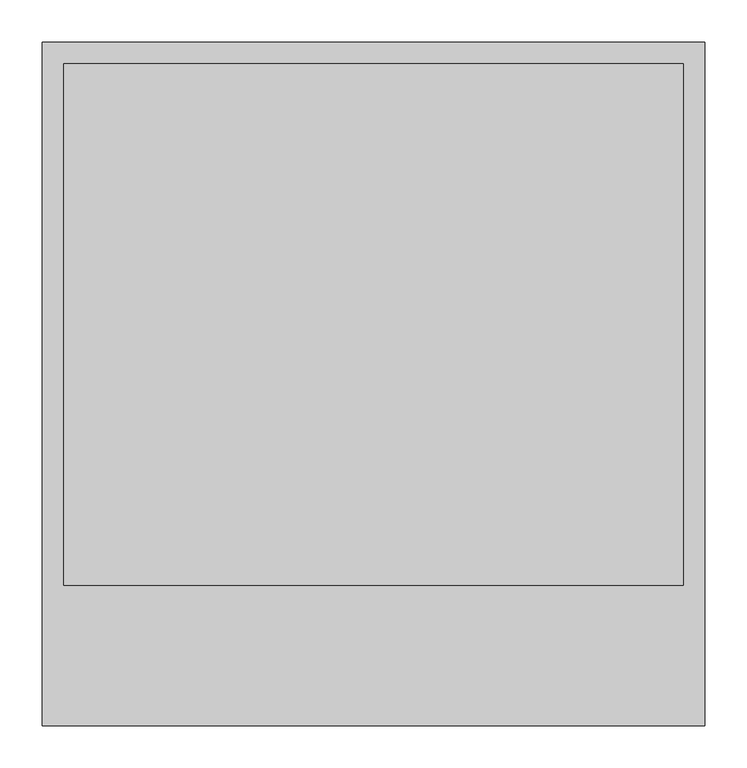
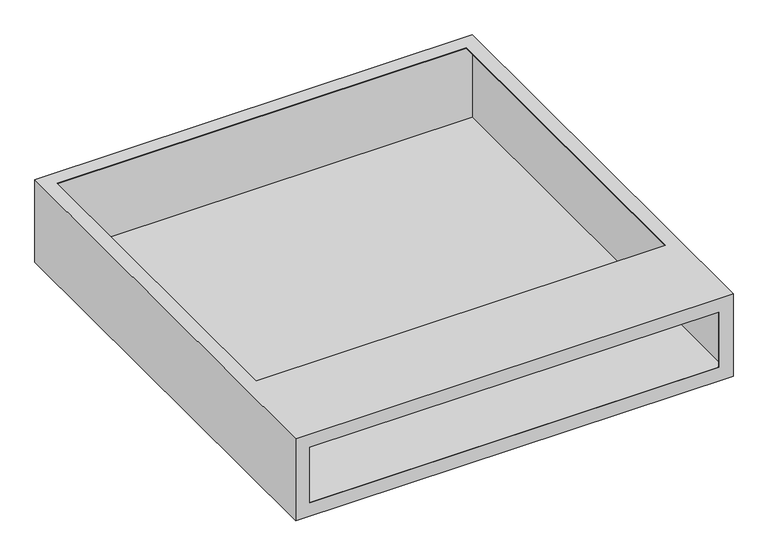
"""IFC4 building model written with IfcOpenShell, lengths in millimetres: valve geometry, USYSTEMS_Коллекторный шкаф_Накладной : 785x160 мм."""

from ifc_helpers import new_model, si_unit, origin, place, context, project, spatial, faceted_brep, source, transform, mapped, element, save


def valve_a98dd44e(model_context):
    return source(origin(), model_context, "Body", "Brep", [
        faceted_brep([(392.5, 405.0, 156.0), (-392.5, 405.0, 156.0), (-392.5, -405.0, 156.0), (392.5, -405.0, 156.0), (-367.0, 379.5, 156.0), (367.0, 379.5, 156.0), (367.0, -238.5, 156.0), (-367.0, -238.5, 156.0), (392.5, 405.0, 0.0), (392.5, -405.0, 0.0), (-392.5, -405.0, 0.0), (-392.5, 405.0, 0.0), (-367.0, -405.0, 130.5), (367.0, -405.0, 130.5), (367.0, -405.0, 25.5), (-367.0, -405.0, 25.5), (-367.0, 379.5, 155.0), (367.0, 379.5, 155.0), (-367.0, -238.5, 155.0), (367.0, -238.5, 155.0), (391.5, 404.0, 155.0), (391.5, -404.0, 155.0), (-391.5, -404.0, 155.0), (-391.5, 404.0, 155.0), (391.5, 404.0, 1.0), (-391.5, 404.0, 1.0), (-391.5, -404.0, 1.0), (391.5, -404.0, 1.0), (367.0, -404.0, 130.5), (-367.0, -404.0, 130.5), (-367.0, -404.0, 25.5), (367.0, -404.0, 25.5)], [[[0, 1, 2, 3], [4, 5, 6, 7]], [[8, 9, 10, 11]], [[1, 0, 8, 11]], [[2, 1, 11, 10]], [[3, 2, 10, 9], [12, 13, 14, 15]], [[0, 3, 9, 8]], [[4, 16, 17, 5]], [[16, 4, 7, 18]], [[18, 7, 6, 19]], [[5, 17, 19, 6]], [[20, 21, 22, 23], [17, 16, 18, 19]], [[24, 25, 26, 27]], [[20, 23, 25, 24]], [[23, 22, 26, 25]], [[22, 21, 27, 26], [28, 29, 30, 31]], [[21, 20, 24, 27]], [[28, 13, 12, 29]], [[29, 12, 15, 30]], [[30, 15, 14, 31]], [[13, 28, 31, 14]]]),
    ])


if __name__ == "__main__":
    model = new_model("IFC4")
    model_context = context("Model", 3, world=origin())
    ifc_project = project(units=[si_unit("LENGTHUNIT", "METRE", prefix="MILLI")], contexts=[model_context])
    site = spatial("IfcSite", under=ifc_project)
    building = spatial("IfcBuilding", under=site)
    placement = place(None, origin())
    valve_shape = valve_a98dd44e(model_context)
    element("IfcValve", 1, ObjectType="USYSTEMS_Коллекторный шкаф_Накладной : 785x160 мм", at=placement, inside=building, context=model_context, shape_type="MappedRepresentation", body=[
        mapped(valve_shape, transform((0.0, 0.0, 0.0), x_axis=(1.0, 0.0, 0.0), y_axis=(0.0, 1.0, 0.0), z_axis=(0.0, 0.0, 1.0))),
    ])
    save(model, "model.ifc")
